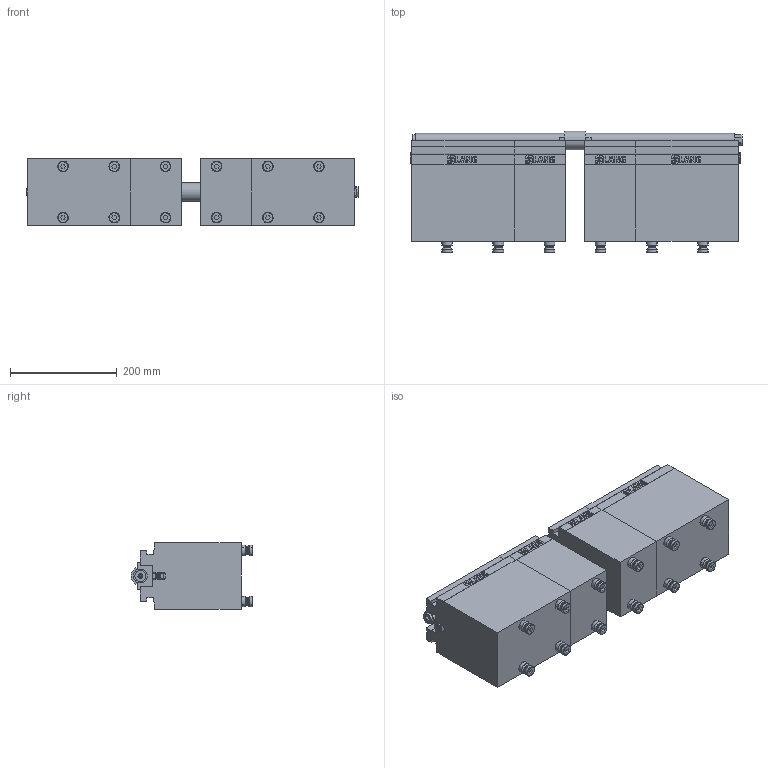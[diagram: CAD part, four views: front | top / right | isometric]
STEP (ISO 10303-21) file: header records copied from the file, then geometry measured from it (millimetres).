
FILE_DESCRIPTION (( 'STEP AP214' ), '1' );
FILE_NAME ('81623.STEP', '2020-10-28T07:21:00', ( '' ), ( '' ), 'SwSTEP 2.0', 'SolidWorks 2019', '' );
FILE_SCHEMA (( 'AUTOMOTIVE_DESIGN' ));
Length unit declared in the file: millimetre
Products named in the file (1): 81623
Bounding box: 622.5 x 228.5 x 125.6 mm (x, y, z)
Volume: 12980600.1 mm3; surface area: 716969.9 mm2
Topology: 39 solids, 39 shells, 1949 faces, 4873 edges, 3128 vertices
Faces by surface type: plane 1254, cylinder 255, cone 168, bspline 160, torus 112
Entity records: 80708 total; most frequent: CARTESIAN_POINT 12791, ORIENTED_EDGE 9674, DIRECTION 9015, EDGE_CURVE 4837, LINE 3607, VECTOR 3607, VERTEX_POINT 3128, AXIS2_PLACEMENT_3D 2704
